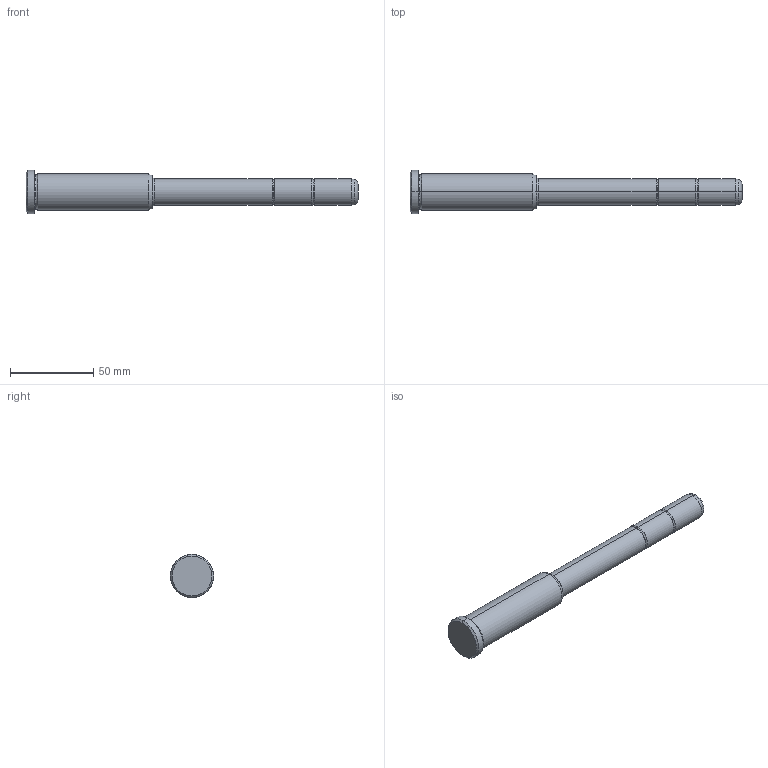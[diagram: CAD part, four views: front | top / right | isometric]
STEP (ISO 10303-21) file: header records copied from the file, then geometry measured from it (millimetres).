
FILE_DESCRIPTION(('CATIA V5 STEP Exchange'),'2;1');
FILE_NAME('C:\Users\Utente\Desktop\IO LAVORO\3D X SITO CF\X SITO\PLASTICA\351\351-16X76X200.stp','2021-08-18T12:45:30+00:00',('none'),('none'),'CATIA Version 5 Release 20 GA (IN-10)','CATIA V5 STEP AP203','none');
FILE_SCHEMA(('CONFIG_CONTROL_DESIGN'));
Length unit declared in the file: millimetre
Products named in the file (1): 351-16X76X200
Bounding box: 200 x 26 x 26 mm (x, y, z)
Volume: 54236.4 mm3; surface area: 12431.7 mm2
Topology: 1 solids, 1 shells, 36 faces, 102 edges, 70 vertices
Faces by surface type: torus 16, cylinder 10, cone 6, plane 4
Entity records: 1292 total; most frequent: CARTESIAN_POINT 321, ORIENTED_EDGE 204, DIRECTION 166, AXIS2_PLACEMENT_3D 115, EDGE_CURVE 102, CIRCLE 78, VERTEX_POINT 70, EDGE_LOOP 38
